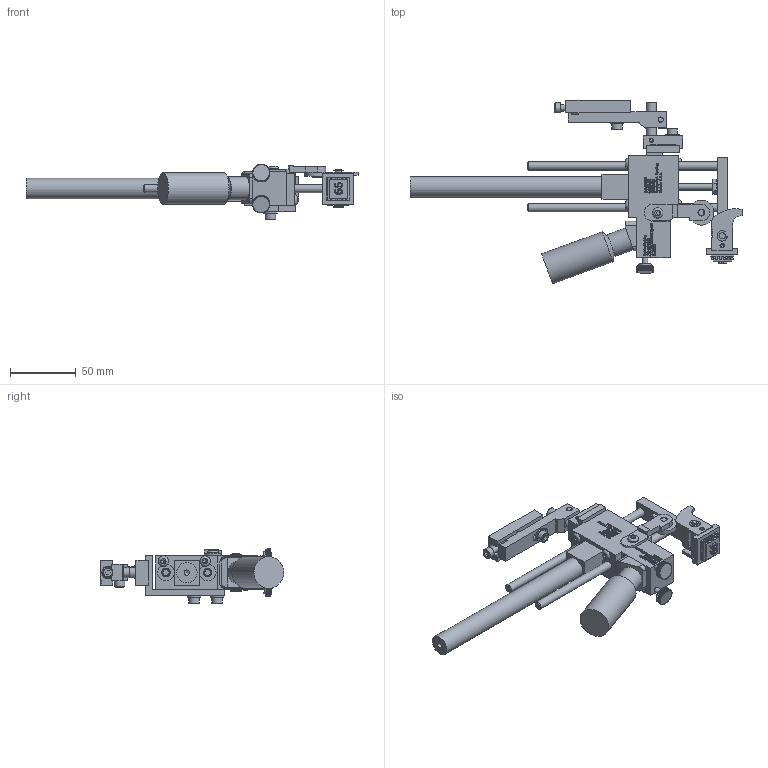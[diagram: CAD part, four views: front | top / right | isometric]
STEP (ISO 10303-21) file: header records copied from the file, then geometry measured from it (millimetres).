
FILE_DESCRIPTION((''),'2;1');
FILE_NAME('C:\Documents and Settings\Ron\My Documents\Inventor\Sprinter Drawing\Machines in Inventor\Model 66\Type\Ext Str\E2\Brkt\90\Model 66 E2 type 90 DEG w brkt mod 2012.stp','2012-02-29T08:21:21',('Ron'),(''),'Autodesk Inventor 2011','Autodesk Inventor 2011','');
FILE_SCHEMA(('AUTOMOTIVE_DESIGN { 1 0 10303 214 1 1 1 1 }'));
Length unit declared in the file: inch
Products named in the file (44): Model 66 E2 type 90 DEG w brkt mod 2012; 66 Frame Body Assy Std w brkt; 66 Frame Body; Hexagon Socket Button Head Cap Screw - Inch 8 - 32 x 1/4; Hexagon Socket Head Cap Screw - Inch No. 8 - 32 UNC - 1 1/2; 66 Linear Bearing; 66 Ink; 66 INK BOTTLE; 66 Ink Pad; 66 Wheel Bracket; 8-32x0.25 Hexagon Socket Button Head Cap Screw ANSI/ASME B18.3; 44 Cam Wheel; 44 Wheel Retainer; 10 Ink Resevior Lock Screw; Model 66 Bracket; Model 66 RPB; rpb4; rpb3; rpb-1; rpb2; No. 10-24x0.88 Hexagon socket head cap screw ANSI/ASME B18.3; Type B - Plain Washer (Inch) No. 10 - narrow - Type B; 66 Machine Mounting Pivot Bracket; Pin - Hardened Ground Machine Dowel (Inch) 1/8 x 3/8; Rod Carrier 90 deg E2; E2; Rod Carrier 90 deg; 66 Rod Carrier; Type A - Hexagon Socket Set Screw - Cup Point - Inch 8-32 UNC x 0.32; 66 PIVOT SHAFT; 66 PIVOT SHAFT LOCKING RING; 23 66 invert block; AS 1112 (4)  - Metric M6; 66 Spring; 19 Rod Carrier Set Screws; 44 & up Removable Marking Head Securing Post; 66 type clip; 66 Marking Head Plate; 66-28; Part # 28 - number 66 stamp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
Assembly tree (61 placements, depth 5):
  Model 66 E2 type 90 DEG w brkt mod 2012
    66 Frame Body Assy Std w brkt
      66 Frame Body
      Hexagon Socket Button Head Cap Screw - Inch 8 - 32 x 1/4  x4
      Hexagon Socket Head Cap Screw - Inch No. 8 - 32 UNC - 1 1/2  x2
      66 Linear Bearing  x2
      66 Ink
      66 INK BOTTLE
      66 Ink Pad
      66 Wheel Bracket
      8-32x0.25 Hexagon Socket Button Head Cap Screw ANSI/ASME B18.3
      44 Cam Wheel
      44 Wheel Retainer
      10 Ink Resevior Lock Screw  x2
      Model 66 Bracket
        Model 66 RPB
          rpb4
          rpb3
          rpb-1
          rpb2
          No. 10-24x0.88 Hexagon socket head cap screw ANSI/ASME B18.3  x5
          Type B - Plain Washer (Inch) No. 10 - narrow - Type B  x4
          66 Machine Mounting Pivot Bracket
          Pin - Hardened Ground Machine Dowel (Inch) 1/8 x 3/8  x2
    Rod Carrier 90 deg E2
      E2  x2
      Rod Carrier 90 deg
        66 Rod Carrier
        Type A - Hexagon Socket Set Screw - Cup Point - Inch 8-32 UNC x 0.32
        66 PIVOT SHAFT
        66 PIVOT SHAFT LOCKING RING  x2
        23 66 invert block
        AS 1112 (4)  - Metric M6
        66 Spring
        19 Rod Carrier Set Screws  x2
        44 & up Removable Marking Head Securing Post
        66 type clip
          66 Marking Head Plate
          44 & up Removable Marking Head Securing Post
          66-28
          Part # 28 - number 66 stamp
        Hexagon Socket Set Screw - Flat Point - Inch 6-32 UNC x 0.45
    E2 90 deg
    Hexagon Socket Set Screw - Flat Point - Inch 8-32 UNC x 0.25
    10-32 PORTS DECAL
Bounding box: 252.55 x 139.56 x 42.07 mm (x, y, z)
Volume: 178658.9 mm3; surface area: 90810.8 mm2
Topology: 428 solids, 428 shells, 6328 faces, 15490 edges, 9575 vertices
Faces by surface type: plane 4364, bspline 1301, cylinder 556, cone 84, torus 23
Full cylindrical faces by diameter (mm): 1.575 x1, 2.54 x2, 2.642 x2, 3.175 x4, 3.2 x1, 3.302 x12, 3.505 x1, 3.658 x1, 3.683 x2, 3.962 x12, 4.064 x2, 4.166 x11, 4.318 x2, 4.699 x3, 4.75 x3, 4.775 x2, 4.826 x8, 4.864 x2, 4.917 x1, 5.08 x2, 5.156 x7, 5.182 x1, 5.359 x1, 5.556 x1, 6.223 x2, 6.325 x2, 6.35 x5, 6.426 x1, 6.604 x1, 6.858 x2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
Entity records: 150472 total; most frequent: CARTESIAN_POINT 44720, ORIENTED_EDGE 23392, DIRECTION 16805, EDGE_CURVE 11696, VECTOR 8289, LINE 8289, VERTEX_POINT 7500, EDGE_LOOP 5230
